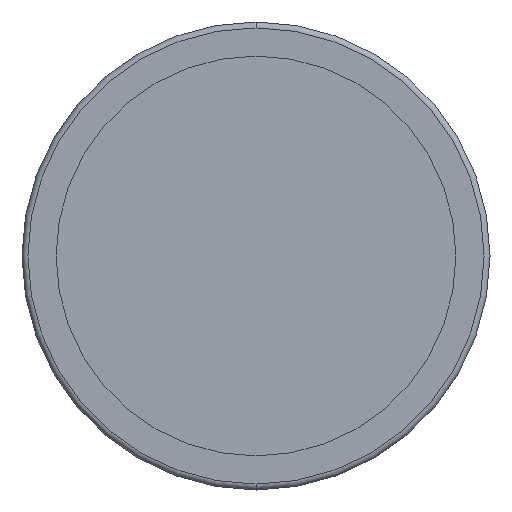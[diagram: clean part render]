
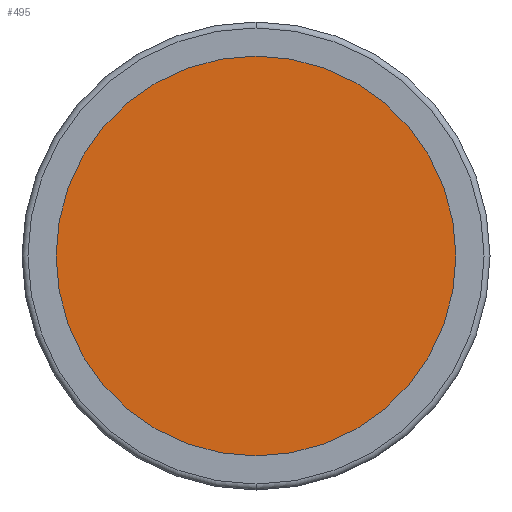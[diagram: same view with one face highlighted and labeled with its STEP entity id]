
A CAD part, front view. The second image highlights one B-rep face of the part: STEP entity #495.
In plain terms, the highlighted planar face has unit normal (0, -1, 0).
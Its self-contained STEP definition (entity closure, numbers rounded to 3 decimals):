
#95 = CARTESIAN_POINT ( 'NONE',  ( 0., -2., -33.75 ) ) ;
#143 = AXIS2_PLACEMENT_3D ( 'NONE', #1681, #750, #2222 ) ;
#146 = FACE_OUTER_BOUND ( 'NONE', #538, .T. ) ;
#279 = VERTEX_POINT ( 'NONE', #95 ) ;
#446 = EDGE_CURVE ( 'NONE', #279, #1085, #1032, .T. ) ;
#491 = CARTESIAN_POINT ( 'NONE',  ( 0., -2., 33.75 ) ) ;
#495 = ADVANCED_FACE ( 'NONE', ( #146 ), #1163, .T. ) ;
#538 = EDGE_LOOP ( 'NONE', ( #1758, #1110 ) ) ;
#738 = DIRECTION ( 'NONE',  ( 0., 0., 1. ) ) ;
#750 = DIRECTION ( 'NONE',  ( 0., -1., 0. ) ) ;
#867 = AXIS2_PLACEMENT_3D ( 'NONE', #1485, #1286, #1837 ) ;
#1032 = CIRCLE ( 'NONE', #1475, 33.75 ) ;
#1085 = VERTEX_POINT ( 'NONE', #491 ) ;
#1110 = ORIENTED_EDGE ( 'NONE', *, *, #446, .F. ) ;
#1163 = PLANE ( 'NONE',  #143 ) ;
#1165 = CIRCLE ( 'NONE', #867, 33.75 ) ;
#1286 = DIRECTION ( 'NONE',  ( 0., 1., 0. ) ) ;
#1475 = AXIS2_PLACEMENT_3D ( 'NONE', #1668, #2428, #738 ) ;
#1485 = CARTESIAN_POINT ( 'NONE',  ( 0., -2., 0. ) ) ;
#1668 = CARTESIAN_POINT ( 'NONE',  ( 0., -2., 0. ) ) ;
#1681 = CARTESIAN_POINT ( 'NONE',  ( -33.75, -2., 0. ) ) ;
#1758 = ORIENTED_EDGE ( 'NONE', *, *, #2255, .F. ) ;
#1837 = DIRECTION ( 'NONE',  ( 0., 0., 1. ) ) ;
#2222 = DIRECTION ( 'NONE',  ( 0., 0., -1. ) ) ;
#2255 = EDGE_CURVE ( 'NONE', #1085, #279, #1165, .T. ) ;
#2428 = DIRECTION ( 'NONE',  ( 0., 1., 0. ) ) ;
